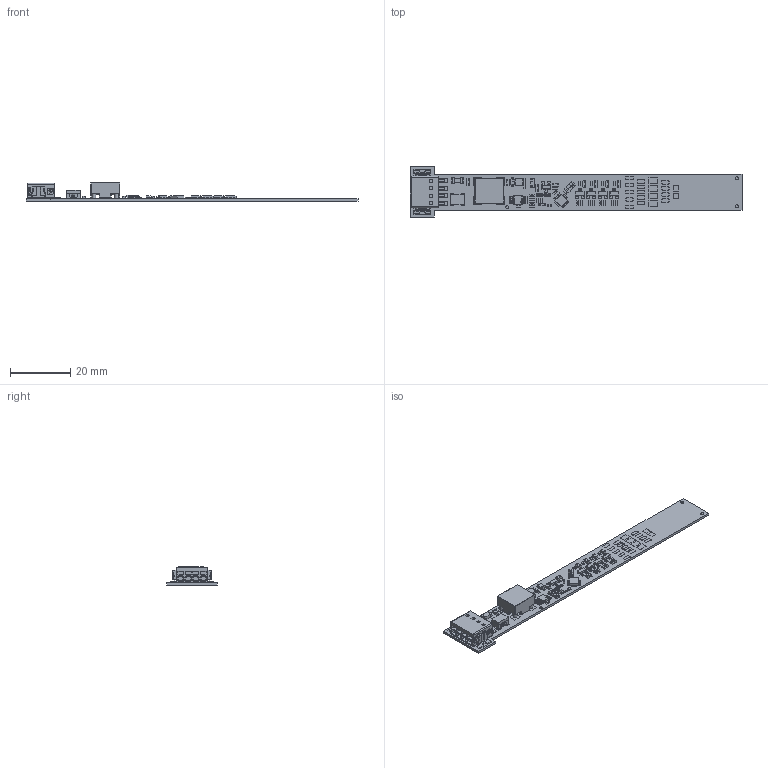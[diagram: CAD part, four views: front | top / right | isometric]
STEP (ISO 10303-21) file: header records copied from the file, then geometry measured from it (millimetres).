
FILE_DESCRIPTION(('STEP AP214'),'1');
FILE_NAME('DDS1171.stp','2021-10-26T10:38:15',(' '),(' '),'Spatial InterOp 3D',' ',' ');
FILE_SCHEMA(('AUTOMOTIVE_DESIGN { 1 0 10303 214 1 1 1 1 }'));
Length unit declared in the file: millimetre
Products named in the file (51): 478431 DDS1171; BOARD; Top Elec; Plating(Lead hole); L2543-0402@C10; L2543-0402@R8; L2543-0402@R6; L2543-0402@R4; L2543-0402@C6; L1557-0805@R2; L2543-0402@R1; L2543-0402@R3; L2519-0603@C4; L2543-0402@R19; L2519-0603@C13; L2519-0603@C8; L2519-0603@C9; L1556-SOT23@MFT1; L2543-0402@R11; L2543-0402@R9; L2543-0402@R12; L2543-0402@R10; L1556-SOT23@MFT2; L2543-0402@R16; L2543-0402@R18; L1556-SOT23@MFT3; L2519-0603@C12; L2543-0402@R15; L2519-0603@C1; L18626-POWERPAK SC-70-6L-single VISHAY; L2543-03-0402 DIODE DSN2 CASE 152AC ON SEMICONDUCTOR; L2543-0402@C5; L2543-0402@C7; L8313-MSOP8 TEXAS DGK S-PDSO-G8@U2; L16029-PTSM 0,5-4-2,5-H SMD R24 PHOENIX 1702474@CN1; L1553-1206@F1; L15776-01-FILTRO SMD WE-SL5 7442732xx WURTH@L1; L18154-FILTRO SMD WE-CNSW SIZE 1812 WURTH@L2; L13055-01-SOD323 BOURNS@TVS1; L2519-LED-0603 LED@LD1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
Assembly tree (53 placements, depth 2):
  478431 DDS1171
    BOARD
    Top Elec
    Plating(Lead hole)
    L2543-0402@C10
    L2543-0402@R8
    L2543-0402@R6
    L2543-0402@R4
    L2543-0402@C6
    L1557-0805@R2
    L2543-0402@R1
    L2543-0402@R3
    L2519-0603@C4
    L2543-0402@R19
    L2519-0603@C13
    L2519-0603@C8
    L2519-0603@C9
    L1556-SOT23@MFT1
    L2543-0402@R11
    L2543-0402@R9
    L2543-0402@R12
    L2543-0402@R10
    L1556-SOT23@MFT2
    L2543-0402@R16
    L2543-0402@R18
    L1556-SOT23@MFT3
    L2519-0603@C12
    L2543-0402@R15
    L2519-0603@C1
    L18626-POWERPAK SC-70-6L-single VISHAY
    L2543-03-0402 DIODE DSN2 CASE 152AC ON SEMICONDUCTOR  x4
    L2543-0402@C5
    L2543-0402@C7
    L8313-MSOP8 TEXAS DGK S-PDSO-G8@U2
    L16029-PTSM 0,5-4-2,5-H SMD R24 PHOENIX 1702474@CN1
    L1553-1206@F1
    L15776-01-FILTRO SMD WE-SL5 7442732xx WURTH@L1
    L18154-FILTRO SMD WE-CNSW SIZE 1812 WURTH@L2
    L13055-01-SOD323 BOURNS@TVS1
    L2519-LED-0603 LED@LD1
    L1556-SOT23@MFT4
    L2543-0402@C3
    L2543-0402@R5
    L2519-0603@C11
    L2519-0603@C2
    L2543-0402@R7
    L2543-0402@R17
    L2543-0402@R13
    L2543-0402@R14
    L1556-SOT23@U1
    L17044-01-QFN-24-GI 3X3mm P0.4mm SILABS - VERSIONE PAD DDS
Bounding box: 110 x 16.6 x 6.17 mm (x, y, z)
Volume: 1840.3 mm3; surface area: 5343.8 mm2
Topology: 248 solids, 249 shells, 3578 faces, 8514 edges, 5506 vertices
Faces by surface type: plane 2498, cylinder 753, torus 124, bspline 80, sphere 70, cone 36, extrusion 17
Entity records: 144580 total; most frequent: CARTESIAN_POINT 32888, DIRECTION 17348, ORIENTED_EDGE 16890, EDGE_CURVE 8446, VECTOR 6366, LINE 6349, AXIS2_PLACEMENT_3D 5491, VERTEX_POINT 5482
